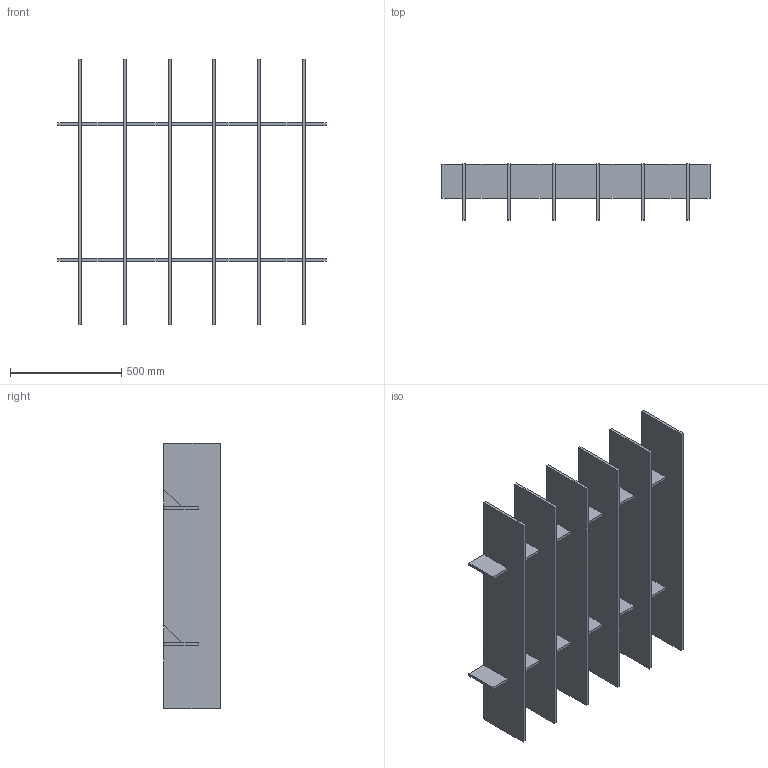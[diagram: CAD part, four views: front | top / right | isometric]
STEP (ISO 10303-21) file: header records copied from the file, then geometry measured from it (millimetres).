
FILE_DESCRIPTION(/* description */ (''),/* implementation_level */ '2;1');
FILE_NAME(/* name */ 'Y:\Design and Engineering\MaterialLogiq\CAD ASSETS\MASTER\BAFFLE\WEB ASSETS\PET BAFFLE_6FIN_4x4_10_FLAT.stp',/* time_stamp */ '2023-11-16T10:15:34-06:00',/* author */ ('Grant Baker'),/* organization */ (''),/* preprocessor_version */ 'ST-DEVELOPER v19',/* originating_system */ 'Autodesk Inventor 2023',/* authorisation */ '');
FILE_SCHEMA (('AUTOMOTIVE_DESIGN { 1 0 10303 214 3 1 1 }'));
Length unit declared in the file: inch
Products named in the file (3): PET BAFFLE_PARAMETRIC_11.02.2023; PET BAFFLE_BEAM; PET BAFFLE_48in_FIN_STANDARD
Assembly tree (8 placements, depth 2):
  PET BAFFLE_PARAMETRIC_11.02.2023
    PET BAFFLE_BEAM  x2
    PET BAFFLE_48in_FIN_STANDARD  x6
Bounding box: 1206.5 x 254 x 1193.8 mm (x, y, z)
Volume: 26568084.7 mm3; surface area: 4694654.8 mm2
Topology: 20 solids, 20 shells, 312 faces, 816 edges, 544 vertices
Faces by surface type: plane 312
Entity records: 2879 total; most frequent: CARTESIAN_POINT 499, ORIENTED_EDGE 480, DIRECTION 438, LINE 240, VECTOR 240, EDGE_CURVE 240, VERTEX_POINT 160, AXIS2_PLACEMENT_3D 99
